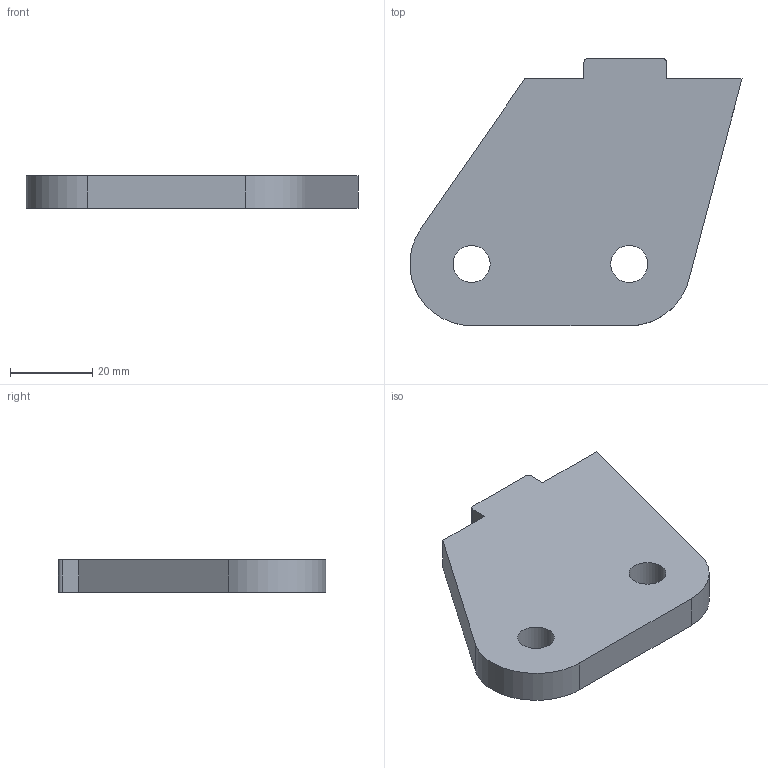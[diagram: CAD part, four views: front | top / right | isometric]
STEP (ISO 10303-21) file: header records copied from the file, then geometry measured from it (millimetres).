
FILE_DESCRIPTION(/* description */ (''),/* implementation_level */ '2;1');
FILE_NAME(/* name */ 'Pos157-Plaatwerk D= 8-S235JRG2-3st',/* time_stamp */ '2024-08-06T13:37:45+02:00',/* author */ (''),/* organization */ (''),/* preprocessor_version */ 'ST-DEVELOPER v16.5',/* originating_system */ 'HiCAD 2024 2901.2 Build 361',/* authorisation */ '');
FILE_SCHEMA (('AUTOMOTIVE_DESIGN { 1 0 10303 214 1 1 1 1 }'));
Length unit declared in the file: millimetre
Products named in the file (1): Pos157-Plaatwerk D= 8-S235JRG2-3st
Bounding box: 80.69 x 65 x 8 mm (x, y, z)
Volume: 29604.4 mm3; surface area: 9833 mm2
Topology: 1 solids, 1 shells, 16 faces, 44 edges, 30 vertices
Faces by surface type: plane 10, cylinder 6
Full cylindrical faces by diameter (mm): 9 x2
Entity records: 914 total; most frequent: DIRECTION 84, CARTESIAN_POINT 84, PRESENTATION_STYLE_ASSIGNMENT 81, COLOUR_RGB 81, DRAUGHTING_PRE_DEFINED_CURVE_FONT 80, CURVE_STYLE 80, OVER_RIDING_STYLED_ITEM 80, ORIENTED_EDGE 80
